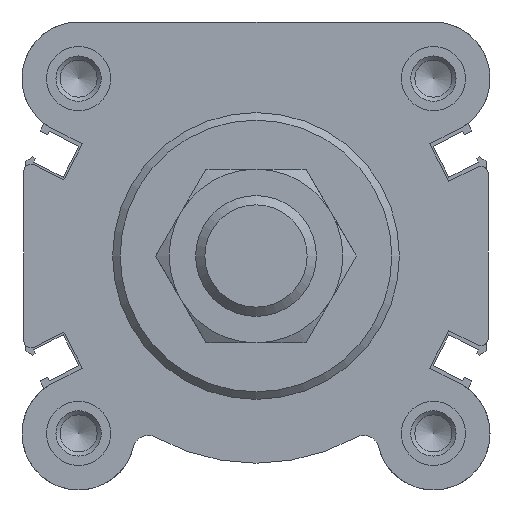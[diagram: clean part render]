
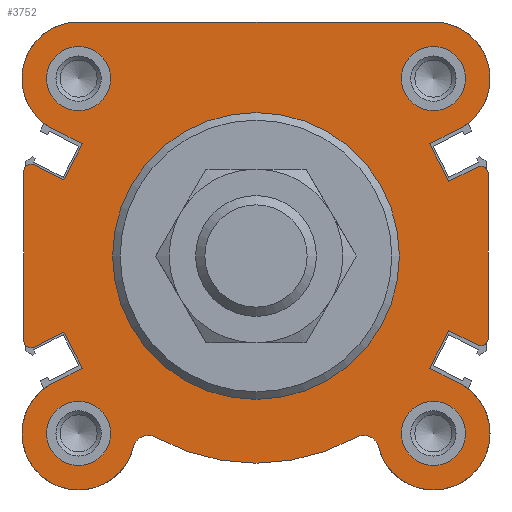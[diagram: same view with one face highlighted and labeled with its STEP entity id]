
A CAD part, left-side view. The second image highlights one B-rep face of the part: STEP entity #3752.
In plain terms, the highlighted planar face has unit normal (-1, 0, 0).
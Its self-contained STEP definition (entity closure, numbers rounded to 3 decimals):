
#167=LINE('',#5808,#485);
#171=LINE('',#5822,#489);
#174=LINE('',#5828,#492);
#177=LINE('',#5834,#495);
#181=LINE('',#5845,#499);
#184=LINE('',#5855,#502);
#187=LINE('',#5861,#505);
#190=LINE('',#5867,#508);
#198=LINE('',#5896,#516);
#201=LINE('',#5902,#519);
#204=LINE('',#5908,#522);
#208=LINE('',#5919,#526);
#211=LINE('',#5929,#529);
#214=LINE('',#5935,#532);
#217=LINE('',#5941,#535);
#485=VECTOR('',#4594,1000.);
#489=VECTOR('',#4608,1000.);
#492=VECTOR('',#4613,1000.);
#495=VECTOR('',#4618,1000.);
#499=VECTOR('',#4630,1000.);
#502=VECTOR('',#4641,1000.);
#505=VECTOR('',#4646,1000.);
#508=VECTOR('',#4651,1000.);
#516=VECTOR('',#4685,1000.);
#519=VECTOR('',#4690,1000.);
#522=VECTOR('',#4695,1000.);
#526=VECTOR('',#4707,1000.);
#529=VECTOR('',#4718,1000.);
#532=VECTOR('',#4723,1000.);
#535=VECTOR('',#4728,1000.);
#1017=ORIENTED_EDGE('',*,*,#2028,.F.);
#1018=ORIENTED_EDGE('',*,*,#2029,.F.);
#1019=ORIENTED_EDGE('',*,*,#2030,.F.);
#1020=ORIENTED_EDGE('',*,*,#2031,.F.);
#1021=ORIENTED_EDGE('',*,*,#2032,.F.);
#1022=ORIENTED_EDGE('',*,*,#1942,.F.);
#1023=ORIENTED_EDGE('',*,*,#2017,.F.);
#1024=ORIENTED_EDGE('',*,*,#2014,.F.);
#1025=ORIENTED_EDGE('',*,*,#2011,.F.);
#1026=ORIENTED_EDGE('',*,*,#2008,.F.);
#1027=ORIENTED_EDGE('',*,*,#2006,.F.);
#1028=ORIENTED_EDGE('',*,*,#2003,.F.);
#1029=ORIENTED_EDGE('',*,*,#2000,.F.);
#1030=ORIENTED_EDGE('',*,*,#1997,.F.);
#1031=ORIENTED_EDGE('',*,*,#1994,.F.);
#1032=ORIENTED_EDGE('',*,*,#1991,.F.);
#1033=ORIENTED_EDGE('',*,*,#1989,.T.);
#1034=ORIENTED_EDGE('',*,*,#1987,.F.);
#1035=ORIENTED_EDGE('',*,*,#1985,.T.);
#1036=ORIENTED_EDGE('',*,*,#1982,.F.);
#1037=ORIENTED_EDGE('',*,*,#1979,.F.);
#1038=ORIENTED_EDGE('',*,*,#1976,.F.);
#1039=ORIENTED_EDGE('',*,*,#1973,.F.);
#1040=ORIENTED_EDGE('',*,*,#1970,.F.);
#1041=ORIENTED_EDGE('',*,*,#1968,.F.);
#1042=ORIENTED_EDGE('',*,*,#1965,.F.);
#1043=ORIENTED_EDGE('',*,*,#1962,.F.);
#1044=ORIENTED_EDGE('',*,*,#1959,.F.);
#1045=ORIENTED_EDGE('',*,*,#1956,.F.);
#1046=ORIENTED_EDGE('',*,*,#1952,.F.);
#1047=ORIENTED_EDGE('',*,*,#1949,.F.);
#1942=EDGE_CURVE('',#2469,#2470,#2782,.T.);
#1949=EDGE_CURVE('',#2470,#2476,#167,.T.);
#1952=EDGE_CURVE('',#2476,#2478,#2787,.T.);
#1956=EDGE_CURVE('',#2478,#2481,#171,.T.);
#1959=EDGE_CURVE('',#2481,#2483,#174,.T.);
#1962=EDGE_CURVE('',#2483,#2485,#177,.T.);
#1965=EDGE_CURVE('',#2485,#2487,#2790,.T.);
#1968=EDGE_CURVE('',#2487,#2488,#181,.T.);
#1970=EDGE_CURVE('',#2488,#2489,#2792,.T.);
#1973=EDGE_CURVE('',#2489,#2491,#184,.T.);
#1976=EDGE_CURVE('',#2491,#2493,#187,.T.);
#1979=EDGE_CURVE('',#2493,#2495,#190,.T.);
#1982=EDGE_CURVE('',#2495,#2497,#2794,.T.);
#1985=EDGE_CURVE('',#2498,#2497,#2796,.T.);
#1987=EDGE_CURVE('',#2498,#2499,#2797,.T.);
#1989=EDGE_CURVE('',#2500,#2499,#2798,.T.);
#1991=EDGE_CURVE('',#2500,#2501,#2799,.T.);
#1994=EDGE_CURVE('',#2501,#2503,#198,.T.);
#1997=EDGE_CURVE('',#2503,#2505,#201,.T.);
#2000=EDGE_CURVE('',#2505,#2507,#204,.T.);
#2003=EDGE_CURVE('',#2507,#2509,#2801,.T.);
#2006=EDGE_CURVE('',#2509,#2510,#208,.T.);
#2008=EDGE_CURVE('',#2510,#2511,#2803,.T.);
#2011=EDGE_CURVE('',#2511,#2513,#211,.T.);
#2014=EDGE_CURVE('',#2513,#2515,#214,.T.);
#2017=EDGE_CURVE('',#2515,#2469,#217,.T.);
#2028=EDGE_CURVE('',#2525,#2525,#2810,.T.);
#2029=EDGE_CURVE('',#2526,#2526,#2811,.T.);
#2030=EDGE_CURVE('',#2527,#2527,#2812,.T.);
#2031=EDGE_CURVE('',#2528,#2528,#2813,.T.);
#2032=EDGE_CURVE('',#2529,#2529,#2814,.F.);
#2469=VERTEX_POINT('',#5794);
#2470=VERTEX_POINT('',#5795);
#2476=VERTEX_POINT('',#5809);
#2478=VERTEX_POINT('',#5815);
#2481=VERTEX_POINT('',#5823);
#2483=VERTEX_POINT('',#5829);
#2485=VERTEX_POINT('',#5835);
#2487=VERTEX_POINT('',#5841);
#2488=VERTEX_POINT('',#5846);
#2489=VERTEX_POINT('',#5850);
#2491=VERTEX_POINT('',#5856);
#2493=VERTEX_POINT('',#5862);
#2495=VERTEX_POINT('',#5868);
#2497=VERTEX_POINT('',#5874);
#2498=VERTEX_POINT('',#5879);
#2499=VERTEX_POINT('',#5883);
#2500=VERTEX_POINT('',#5887);
#2501=VERTEX_POINT('',#5891);
#2503=VERTEX_POINT('',#5897);
#2505=VERTEX_POINT('',#5903);
#2507=VERTEX_POINT('',#5909);
#2509=VERTEX_POINT('',#5915);
#2510=VERTEX_POINT('',#5920);
#2511=VERTEX_POINT('',#5924);
#2513=VERTEX_POINT('',#5930);
#2515=VERTEX_POINT('',#5936);
#2525=VERTEX_POINT('',#5963);
#2526=VERTEX_POINT('',#5965);
#2527=VERTEX_POINT('',#5967);
#2528=VERTEX_POINT('',#5969);
#2529=VERTEX_POINT('',#5971);
#2782=CIRCLE('',#4056,7.5);
#2787=CIRCLE('',#4063,7.5);
#2790=CIRCLE('',#4070,1.);
#2792=CIRCLE('',#4074,1.);
#2794=CIRCLE('',#4080,7.5);
#2796=CIRCLE('',#4083,2.);
#2797=CIRCLE('',#4085,27.45);
#2798=CIRCLE('',#4087,2.);
#2799=CIRCLE('',#4089,7.5);
#2801=CIRCLE('',#4095,1.);
#2803=CIRCLE('',#4099,1.);
#2810=CIRCLE('',#4111,4.25);
#2811=CIRCLE('',#4112,4.25);
#2812=CIRCLE('',#4113,4.25);
#2813=CIRCLE('',#4114,4.25);
#2814=CIRCLE('',#4115,19.);
#2972=EDGE_LOOP('',(#1017));
#2973=EDGE_LOOP('',(#1018));
#2974=EDGE_LOOP('',(#1019));
#2975=EDGE_LOOP('',(#1020));
#2976=EDGE_LOOP('',(#1021));
#2977=EDGE_LOOP('',(#1022,#1023,#1024,#1025,#1026,#1027,#1028,#1029,#1030,
#1031,#1032,#1033,#1034,#1035,#1036,#1037,#1038,#1039,#1040,#1041,#1042,
#1043,#1044,#1045,#1046,#1047));
#3290=FACE_BOUND('',#2972,.T.);
#3291=FACE_BOUND('',#2973,.T.);
#3292=FACE_BOUND('',#2974,.T.);
#3293=FACE_BOUND('',#2975,.T.);
#3294=FACE_BOUND('',#2976,.T.);
#3295=FACE_BOUND('',#2977,.T.);
#3598=PLANE('',#4110);
#3752=ADVANCED_FACE('',(#3290,#3291,#3292,#3293,#3294,#3295),#3598,.F.);
#4056=AXIS2_PLACEMENT_3D('',#5793,#4580,#4581);
#4063=AXIS2_PLACEMENT_3D('',#5814,#4599,#4600);
#4070=AXIS2_PLACEMENT_3D('',#5840,#4623,#4624);
#4074=AXIS2_PLACEMENT_3D('',#5849,#4634,#4635);
#4080=AXIS2_PLACEMENT_3D('',#5873,#4656,#4657);
#4083=AXIS2_PLACEMENT_3D('',#5878,#4663,#4664);
#4085=AXIS2_PLACEMENT_3D('',#5882,#4668,#4669);
#4087=AXIS2_PLACEMENT_3D('',#5886,#4673,#4674);
#4089=AXIS2_PLACEMENT_3D('',#5890,#4678,#4679);
#4095=AXIS2_PLACEMENT_3D('',#5914,#4700,#4701);
#4099=AXIS2_PLACEMENT_3D('',#5923,#4711,#4712);
#4110=AXIS2_PLACEMENT_3D('',#5961,#4746,#4747);
#4111=AXIS2_PLACEMENT_3D('',#5962,#4748,#4749);
#4112=AXIS2_PLACEMENT_3D('',#5964,#4750,#4751);
#4113=AXIS2_PLACEMENT_3D('',#5966,#4752,#4753);
#4114=AXIS2_PLACEMENT_3D('',#5968,#4754,#4755);
#4115=AXIS2_PLACEMENT_3D('',#5970,#4756,#4757);
#4580=DIRECTION('',(1.,0.,0.));
#4581=DIRECTION('',(0.,0.,-1.));
#4594=DIRECTION('',(0.,-1.,0.));
#4599=DIRECTION('',(1.,0.,0.));
#4600=DIRECTION('',(0.,0.,-1.));
#4608=DIRECTION('',(0.,0.891,-0.454));
#4613=DIRECTION('',(0.,-0.454,-0.891));
#4618=DIRECTION('',(0.,-0.891,0.454));
#4623=DIRECTION('',(1.,0.,0.));
#4624=DIRECTION('',(0.,0.,-1.));
#4630=DIRECTION('',(0.,0.,-1.));
#4634=DIRECTION('',(1.,0.,0.));
#4635=DIRECTION('',(0.,0.,-1.));
#4641=DIRECTION('',(0.,0.891,0.454));
#4646=DIRECTION('',(0.,0.454,-0.891));
#4651=DIRECTION('',(0.,-0.891,-0.454));
#4656=DIRECTION('',(1.,0.,0.));
#4657=DIRECTION('',(0.,0.,-1.));
#4663=DIRECTION('',(1.,0.,0.));
#4664=DIRECTION('',(0.,0.,-1.));
#4668=DIRECTION('',(1.,0.,0.));
#4669=DIRECTION('',(0.,0.,-1.));
#4673=DIRECTION('',(1.,0.,0.));
#4674=DIRECTION('',(0.,0.,-1.));
#4678=DIRECTION('',(1.,0.,0.));
#4679=DIRECTION('',(0.,0.,-1.));
#4685=DIRECTION('',(0.,-0.891,0.454));
#4690=DIRECTION('',(0.,0.454,0.891));
#4695=DIRECTION('',(0.,0.891,-0.454));
#4700=DIRECTION('',(1.,0.,0.));
#4701=DIRECTION('',(0.,0.,-1.));
#4707=DIRECTION('',(0.,0.,1.));
#4711=DIRECTION('',(1.,0.,0.));
#4712=DIRECTION('',(0.,0.,-1.));
#4718=DIRECTION('',(0.,-0.891,-0.454));
#4723=DIRECTION('',(0.,-0.454,0.891));
#4728=DIRECTION('',(0.,0.891,0.454));
#4746=DIRECTION('',(1.,0.,0.));
#4747=DIRECTION('',(0.,0.,-1.));
#4748=DIRECTION('',(-1.,0.,0.));
#4749=DIRECTION('',(0.,0.,1.));
#4750=DIRECTION('',(-1.,0.,0.));
#4751=DIRECTION('',(0.,0.,1.));
#4752=DIRECTION('',(-1.,0.,0.));
#4753=DIRECTION('',(0.,0.,1.));
#4754=DIRECTION('',(-1.,0.,0.));
#4755=DIRECTION('',(0.,0.,1.));
#4756=DIRECTION('',(1.,0.,0.));
#4757=DIRECTION('',(0.,0.,-1.));
#5793=CARTESIAN_POINT('',(0.,23.5,23.5));
#5794=CARTESIAN_POINT('',(0.,27.49,17.149));
#5795=CARTESIAN_POINT('',(0.,23.5,31.));
#5808=CARTESIAN_POINT('',(0.,23.5,31.));
#5809=CARTESIAN_POINT('',(0.,-23.5,31.));
#5814=CARTESIAN_POINT('',(0.,-23.5,23.5));
#5815=CARTESIAN_POINT('',(0.,-27.49,17.149));
#5822=CARTESIAN_POINT('',(0.,-27.49,17.149));
#5823=CARTESIAN_POINT('',(0.,-23.009,14.866));
#5828=CARTESIAN_POINT('',(0.,-23.009,14.866));
#5829=CARTESIAN_POINT('',(0.,-25.551,9.876));
#5834=CARTESIAN_POINT('',(0.,-25.551,9.876));
#5835=CARTESIAN_POINT('',(0.,-29.296,11.785));
#5840=CARTESIAN_POINT('',(0.,-29.75,10.894));
#5841=CARTESIAN_POINT('',(0.,-30.75,10.894));
#5845=CARTESIAN_POINT('',(0.,-30.75,10.894));
#5846=CARTESIAN_POINT('',(0.,-30.75,-10.894));
#5849=CARTESIAN_POINT('',(0.,-29.75,-10.894));
#5850=CARTESIAN_POINT('',(0.,-29.296,-11.785));
#5855=CARTESIAN_POINT('',(0.,-29.296,-11.785));
#5856=CARTESIAN_POINT('',(0.,-25.551,-9.876));
#5861=CARTESIAN_POINT('',(0.,-25.551,-9.876));
#5862=CARTESIAN_POINT('',(0.,-23.009,-14.866));
#5867=CARTESIAN_POINT('',(0.,-23.009,-14.866));
#5868=CARTESIAN_POINT('',(0.,-27.49,-17.149));
#5873=CARTESIAN_POINT('',(0.,-23.5,-23.5));
#5874=CARTESIAN_POINT('',(0.,-16.215,-25.284));
#5878=CARTESIAN_POINT('',(0.,-14.273,-25.76));
#5879=CARTESIAN_POINT('',(0.,-13.304,-24.011));
#5882=CARTESIAN_POINT('',(0.,0.,0.));
#5883=CARTESIAN_POINT('',(0.,13.304,-24.011));
#5886=CARTESIAN_POINT('',(0.,14.273,-25.76));
#5887=CARTESIAN_POINT('',(0.,16.215,-25.284));
#5890=CARTESIAN_POINT('',(0.,23.5,-23.5));
#5891=CARTESIAN_POINT('',(0.,27.49,-17.149));
#5896=CARTESIAN_POINT('',(0.,27.49,-17.149));
#5897=CARTESIAN_POINT('',(0.,23.009,-14.866));
#5902=CARTESIAN_POINT('',(0.,23.009,-14.866));
#5903=CARTESIAN_POINT('',(0.,25.438,-10.099));
#5908=CARTESIAN_POINT('',(0.,25.438,-10.099));
#5909=CARTESIAN_POINT('',(0.,29.296,-12.065));
#5914=CARTESIAN_POINT('',(0.,29.75,-11.174));
#5915=CARTESIAN_POINT('',(0.,30.75,-11.174));
#5919=CARTESIAN_POINT('',(0.,30.75,-11.174));
#5920=CARTESIAN_POINT('',(0.,30.75,11.174));
#5923=CARTESIAN_POINT('',(0.,29.75,11.174));
#5924=CARTESIAN_POINT('',(0.,29.296,12.065));
#5929=CARTESIAN_POINT('',(0.,29.296,12.065));
#5930=CARTESIAN_POINT('',(0.,25.438,10.099));
#5935=CARTESIAN_POINT('',(0.,25.438,10.099));
#5936=CARTESIAN_POINT('',(0.,23.009,14.866));
#5941=CARTESIAN_POINT('',(0.,23.009,14.866));
#5961=CARTESIAN_POINT('',(0.,23.5,23.5));
#5962=CARTESIAN_POINT('',(0.,-23.5,-23.5));
#5963=CARTESIAN_POINT('',(0.,-23.5,-19.25));
#5964=CARTESIAN_POINT('',(0.,23.5,-23.5));
#5965=CARTESIAN_POINT('',(0.,23.5,-19.25));
#5966=CARTESIAN_POINT('',(0.,23.5,23.5));
#5967=CARTESIAN_POINT('',(0.,23.5,27.75));
#5968=CARTESIAN_POINT('',(0.,-23.5,23.5));
#5969=CARTESIAN_POINT('',(0.,-23.5,27.75));
#5970=CARTESIAN_POINT('',(0.,0.,0.));
#5971=CARTESIAN_POINT('',(0.,0.,-19.));
